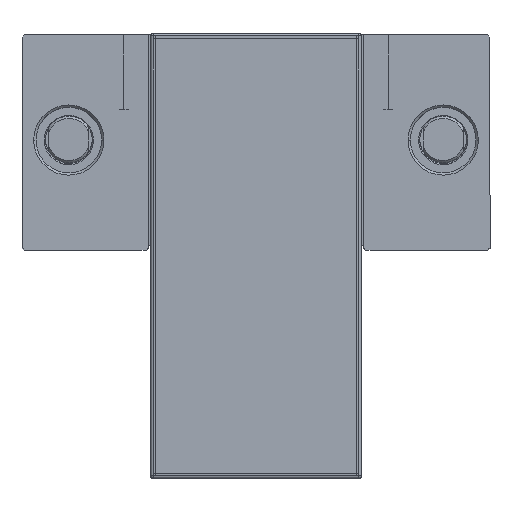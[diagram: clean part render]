
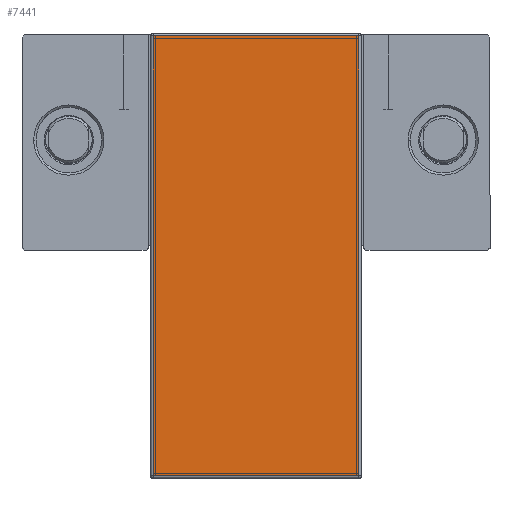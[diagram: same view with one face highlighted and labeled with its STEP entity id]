
A CAD part, top view. The second image highlights one B-rep face of the part: STEP entity #7441.
In plain terms, the highlighted planar face has unit normal (0, 0, 1).
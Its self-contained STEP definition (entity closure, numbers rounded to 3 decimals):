
#295 = ORIENTED_EDGE ( 'NONE', *, *, #26981, .T. ) ;
#1084 = CARTESIAN_POINT ( 'NONE',  ( 44., -144., 321. ) ) ;
#1755 = CARTESIAN_POINT ( 'NONE',  ( -44., -144., 321. ) ) ;
#3065 = VERTEX_POINT ( 'NONE', #1084 ) ;
#4005 = EDGE_LOOP ( 'NONE', ( #295, #13913, #10406, #12685 ) ) ;
#4434 = CARTESIAN_POINT ( 'NONE',  ( 44., 44., 321. ) ) ;
#6510 = PLANE ( 'NONE',  #11609 ) ;
#7441 = ADVANCED_FACE ( 'NONE', ( #34978 ), #6510, .T. ) ;
#8389 = EDGE_CURVE ( 'NONE', #20716, #3065, #37280, .T. ) ;
#8480 = EDGE_CURVE ( 'NONE', #21728, #12996, #15883, .T. ) ;
#9503 = CARTESIAN_POINT ( 'NONE',  ( -44., -144., 321. ) ) ;
#10406 = ORIENTED_EDGE ( 'NONE', *, *, #28531, .T. ) ;
#11609 = AXIS2_PLACEMENT_3D ( 'NONE', #9503, #33283, #15473 ) ;
#12685 = ORIENTED_EDGE ( 'NONE', *, *, #8480, .T. ) ;
#12996 = VERTEX_POINT ( 'NONE', #18666 ) ;
#13913 = ORIENTED_EDGE ( 'NONE', *, *, #8389, .T. ) ;
#14971 = VECTOR ( 'NONE', #30913, 1000. ) ;
#15473 = DIRECTION ( 'NONE',  ( 1., 0., 0. ) ) ;
#15844 = CARTESIAN_POINT ( 'NONE',  ( 44., -144., 321. ) ) ;
#15883 = LINE ( 'NONE', #36888, #14971 ) ;
#16132 = CARTESIAN_POINT ( 'NONE',  ( 44., 44., 321. ) ) ;
#17255 = VECTOR ( 'NONE', #30953, 1000. ) ;
#18666 = CARTESIAN_POINT ( 'NONE',  ( -44., 44., 321. ) ) ;
#20716 = VERTEX_POINT ( 'NONE', #34100 ) ;
#21728 = VERTEX_POINT ( 'NONE', #4434 ) ;
#22510 = DIRECTION ( 'NONE',  ( 0., -1., 0. ) ) ;
#26571 = VECTOR ( 'NONE', #36636, 1000. ) ;
#26981 = EDGE_CURVE ( 'NONE', #12996, #20716, #33147, .T. ) ;
#28531 = EDGE_CURVE ( 'NONE', #3065, #21728, #34010, .T. ) ;
#30913 = DIRECTION ( 'NONE',  ( -1., 0., 0. ) ) ;
#30953 = DIRECTION ( 'NONE',  ( 0., 1., 0. ) ) ;
#33147 = LINE ( 'NONE', #1755, #34070 ) ;
#33283 = DIRECTION ( 'NONE',  ( 0., 0., 1. ) ) ;
#34010 = LINE ( 'NONE', #16132, #17255 ) ;
#34070 = VECTOR ( 'NONE', #22510, 1000. ) ;
#34100 = CARTESIAN_POINT ( 'NONE',  ( -44., -144., 321. ) ) ;
#34978 = FACE_OUTER_BOUND ( 'NONE', #4005, .T. ) ;
#36636 = DIRECTION ( 'NONE',  ( 1., 0., 0. ) ) ;
#36888 = CARTESIAN_POINT ( 'NONE',  ( -44., 44., 321. ) ) ;
#37280 = LINE ( 'NONE', #15844, #26571 ) ;
